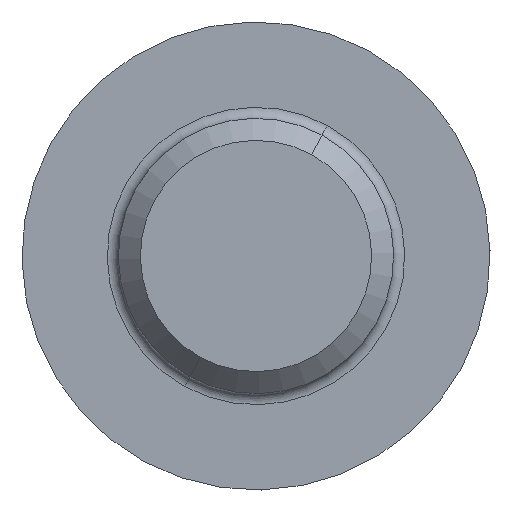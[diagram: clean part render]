
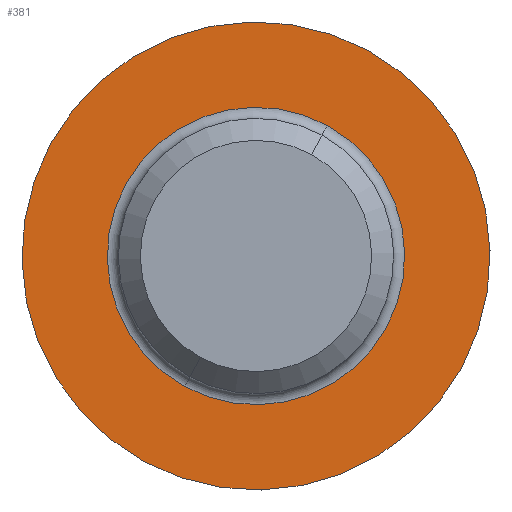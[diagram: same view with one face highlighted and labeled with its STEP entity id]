
A CAD part, front view. The second image highlights one B-rep face of the part: STEP entity #381.
In plain terms, the highlighted planar face has unit normal (0, -1, 0).
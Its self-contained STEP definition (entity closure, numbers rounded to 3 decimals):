
#320=CARTESIAN_POINT('Vertex',(-2.038,0.,-3.73)) ;
#327=CARTESIAN_POINT('Vertex',(2.038,0.,3.73)) ;
#330=CARTESIAN_POINT('Axis2P3D Location',(0.,0.,0.)) ;
#342=CARTESIAN_POINT('Axis2P3D Location',(0.,0.,0.)) ;
#354=CARTESIAN_POINT('Axis2P3D Location',(0.,0.,-4.25)) ;
#363=CARTESIAN_POINT('Axis2P3D Location',(0.,0.,0.)) ;
#367=CARTESIAN_POINT('Vertex',(1.294,0.,2.369)) ;
#369=CARTESIAN_POINT('Vertex',(-1.294,0.,-2.369)) ;
#372=CARTESIAN_POINT('Axis2P3D Location',(0.,0.,0.)) ;
#331=DIRECTION('Axis2P3D Direction',(-0.,1.,0.)) ;
#343=DIRECTION('Axis2P3D Direction',(-0.,1.,0.)) ;
#355=DIRECTION('Axis2P3D Direction',(-0.,1.,0.)) ;
#356=DIRECTION('Axis2P3D XDirection',(1.,0.,0.)) ;
#364=DIRECTION('Axis2P3D Direction',(-0.,1.,0.)) ;
#373=DIRECTION('Axis2P3D Direction',(-0.,1.,0.)) ;
#332=AXIS2_PLACEMENT_3D('Circle Axis2P3D',#330,#331,$) ;
#344=AXIS2_PLACEMENT_3D('Circle Axis2P3D',#342,#343,$) ;
#357=AXIS2_PLACEMENT_3D('Plane Axis2P3D',#354,#355,#356) ;
#365=AXIS2_PLACEMENT_3D('Circle Axis2P3D',#363,#364,$) ;
#374=AXIS2_PLACEMENT_3D('Circle Axis2P3D',#372,#373,$) ;
#333=CIRCLE('generated circle',#332,4.25) ;
#345=CIRCLE('generated circle',#344,4.25) ;
#366=CIRCLE('generated circle',#365,2.7) ;
#375=CIRCLE('generated circle',#374,2.7) ;
#358=PLANE('',#357) ;
#380=FACE_BOUND('',#377,.T.) ;
#334=EDGE_CURVE('',#328,#321,#333,.T.) ;
#346=EDGE_CURVE('',#321,#328,#345,.T.) ;
#371=EDGE_CURVE('',#368,#370,#366,.T.) ;
#376=EDGE_CURVE('',#370,#368,#375,.T.) ;
#360=ORIENTED_EDGE('',*,*,#346,.F.) ;
#361=ORIENTED_EDGE('',*,*,#334,.F.) ;
#378=ORIENTED_EDGE('',*,*,#371,.T.) ;
#379=ORIENTED_EDGE('',*,*,#376,.T.) ;
#359=EDGE_LOOP('',(#360,#361)) ;
#377=EDGE_LOOP('',(#378,#379)) ;
#321=VERTEX_POINT('',#320) ;
#328=VERTEX_POINT('',#327) ;
#368=VERTEX_POINT('',#367) ;
#370=VERTEX_POINT('',#369) ;
#381=ADVANCED_FACE('Body.2',(#362,#380),#358,.F.) ;
#362=FACE_OUTER_BOUND('',#359,.T.) ;
